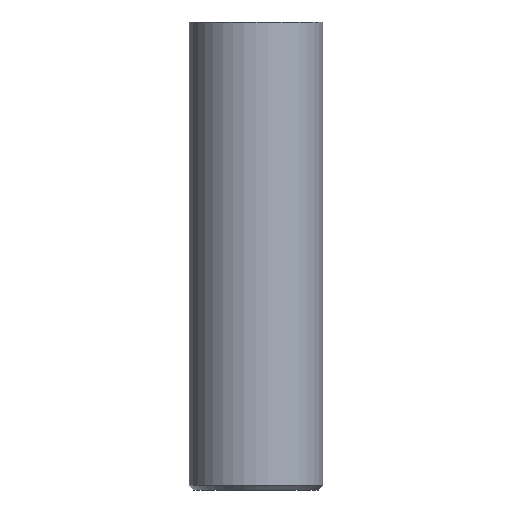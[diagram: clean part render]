
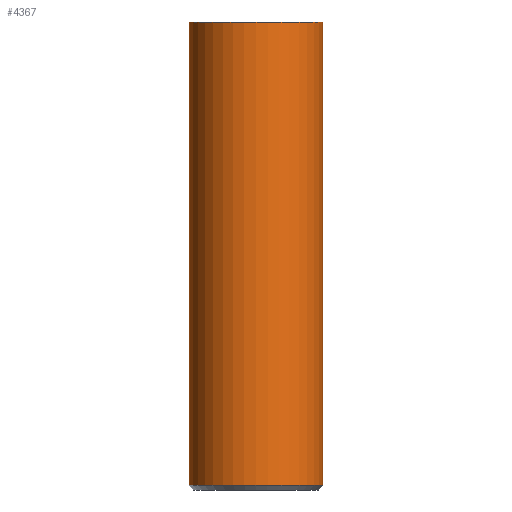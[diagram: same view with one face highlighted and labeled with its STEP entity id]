
A CAD part, front view. The second image highlights one B-rep face of the part: STEP entity #4367.
In plain terms, the highlighted cylindrical face has radius 2 mm (diameter 4 mm), a full revolution.
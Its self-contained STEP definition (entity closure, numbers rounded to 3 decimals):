
#525=CYLINDRICAL_SURFACE('',#4524,2.);
#750=FACE_OUTER_BOUND('',#998,.T.);
#998=EDGE_LOOP('',(#4086,#4087,#4088,#4089));
#1335=LINE('',#8714,#1678);
#1678=VECTOR('',#5127,2.);
#1710=CIRCLE('',#4418,2.);
#1739=CIRCLE('',#4523,2.);
#1766=VERTEX_POINT('',#5246);
#2163=VERTEX_POINT('',#8710);
#2210=EDGE_CURVE('',#1766,#1766,#1710,.T.);
#2807=EDGE_CURVE('',#2163,#2163,#1739,.T.);
#2809=EDGE_CURVE('',#1766,#2163,#1335,.T.);
#4086=ORIENTED_EDGE('',*,*,#2210,.F.);
#4087=ORIENTED_EDGE('',*,*,#2809,.T.);
#4088=ORIENTED_EDGE('',*,*,#2807,.F.);
#4089=ORIENTED_EDGE('',*,*,#2809,.F.);
#4367=ADVANCED_FACE('',(#750),#525,.T.);
#4418=AXIS2_PLACEMENT_3D('',#5247,#4610,#4611);
#4523=AXIS2_PLACEMENT_3D('',#8711,#5122,#5123);
#4524=AXIS2_PLACEMENT_3D('',#8713,#5125,#5126);
#4610=DIRECTION('center_axis',(0.,0.,1.));
#4611=DIRECTION('ref_axis',(1.,0.,0.));
#5122=DIRECTION('center_axis',(0.,0.,-1.));
#5123=DIRECTION('ref_axis',(1.,0.,0.));
#5125=DIRECTION('center_axis',(0.,0.,1.));
#5126=DIRECTION('ref_axis',(1.,0.,0.));
#5127=DIRECTION('',(0.,0.,-1.));
#5246=CARTESIAN_POINT('',(-2.,0.,14.));
#5247=CARTESIAN_POINT('Origin',(0.,0.,14.));
#8710=CARTESIAN_POINT('',(-2.,0.,0.14));
#8711=CARTESIAN_POINT('Origin',(0.,0.,0.14));
#8713=CARTESIAN_POINT('Origin',(0.,0.,0.));
#8714=CARTESIAN_POINT('',(-2.,0.,0.));
